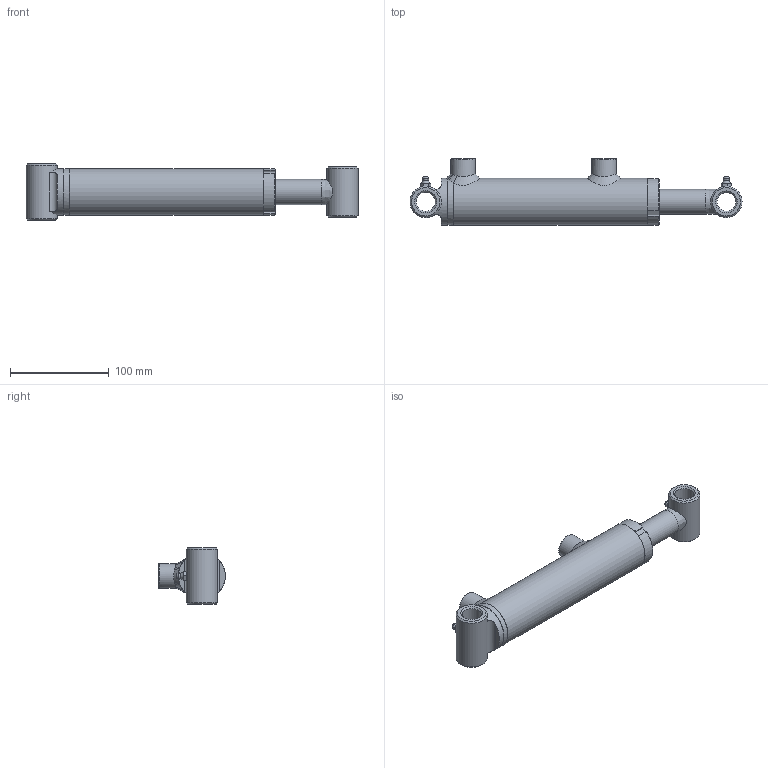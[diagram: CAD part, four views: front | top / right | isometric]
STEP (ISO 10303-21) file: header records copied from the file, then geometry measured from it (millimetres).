
FILE_DESCRIPTION(/* description */ (''),/* implementation_level */ '2;1');
FILE_NAME(/* name */ 'C:\01 - Philip\00 - Philip Rivard\01 - Contracts\Eagle Hydraulic Components\00 - 3D Cylinder\HBU1504-ORB\HBU1504-ORB.stp',/* time_stamp */ '2015-04-13T12:38:39-04:00',/* author */ ('Philip Rivard'),/* organization */ (''),/* preprocessor_version */ 'ST-DEVELOPER v15.6',/* originating_system */ 'Autodesk Inventor 2015',/* authorisation */ '');
FILE_SCHEMA (('AUTOMOTIVE_DESIGN { 1 0 10303 214 3 1 1 }'));
Length unit declared in the file: inch
Products named in the file (12): Tube_HBU_Welds; Tube; Straight_Port; ECP-15-HBU; Tube_HBU; Gland; Rod_HBU_Welds; Rod; Bushing; Rod_HBU; Grease Fitting 1-8; Cylinder_Assembly
Bounding box: 336.55 x 67.62 x 57.2 mm (x, y, z)
Volume: 381683 mm3; surface area: 126334.9 mm2
Topology: 12 solids, 12 shells, 206 faces, 457 edges, 278 vertices
Faces by surface type: cone 65, plane 59, cylinder 53, torus 15, bspline 12, sphere 2
Full cylindrical faces by diameter (mm): 4 x2, 5 x1, 7.5 x2, 8 x2, 10 x2, 12.751 x2, 19.05 x2, 19.3 x2, 19.65 x1, 19.9 x1, 22 x1, 25 x4, 25.4 x2, 31.75 x2, 31.8 x1, 35 x1, 37.897 x1, 38.05 x1, 38.1 x1, 40 x1, 42 x2, 43 x1, 47.6 x1, 47.625 x1
Entity records: 6297 total; most frequent: CARTESIAN_POINT 2914, DIRECTION 666, ORIENTED_EDGE 538, AXIS2_PLACEMENT_3D 305, EDGE_LOOP 276, EDGE_CURVE 269, VERTEX_POINT 205, ADVANCED_FACE 166
